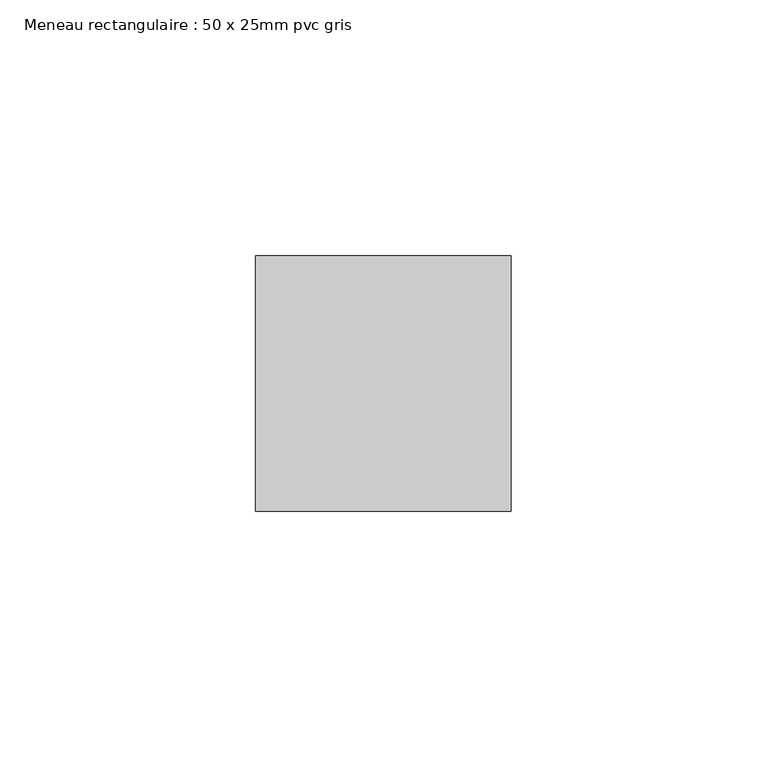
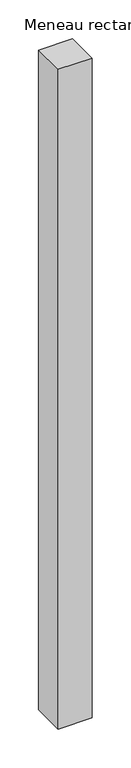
"""IFC4 building model written with IfcOpenShell, lengths in millimetres: member geometry, Meneau rectangulaire : 50 x 25mm pvc gris."""

from ifc_helpers import new_model, si_unit, frame, origin, place, context, project, spatial, polyline, outline, extrude, source, transform, mapped, element, save


def meneau_rectangulaire_50_x_25mm_pvc_gris_23ea8a53(model_context):
    return source(origin(), model_context, "Body", "SweptSolid", [
        extrude(outline(polyline([(0.0, 0.0), (0.0, -50.0), (-50.0, -50.0), (-50.0, 0.0), (0.0, 0.0)])), frame((0.0, 0.0, -1034.0), z_axis=(0.0, 0.0, 1.0), x_axis=(1.0, 0.0, 0.0)), (0.0, 0.0, 1.0), 1034.0),
    ])


if __name__ == "__main__":
    model = new_model("IFC4")
    model_context = context("Model", 3, world=origin())
    ifc_project = project(units=[si_unit("LENGTHUNIT", "METRE", prefix="MILLI")], contexts=[model_context])
    site = spatial("IfcSite", under=ifc_project)
    building = spatial("IfcBuilding", under=site)
    placement = place(None, origin())
    meneau_rectangulaire_50_x_25mm_pvc_gris_shape = meneau_rectangulaire_50_x_25mm_pvc_gris_23ea8a53(model_context)
    element("IfcMember", 1, ObjectType="Meneau rectangulaire : 50 x 25mm pvc gris", at=placement, inside=building, context=model_context, shape_type="MappedRepresentation", body=[
        mapped(meneau_rectangulaire_50_x_25mm_pvc_gris_shape, transform((0.0, 0.0, 0.0), x_axis=(1.0, 0.0, 0.0), y_axis=(0.0, 1.0, 0.0), z_axis=(0.0, 0.0, 1.0))),
    ])
    save(model, "model.ifc")
